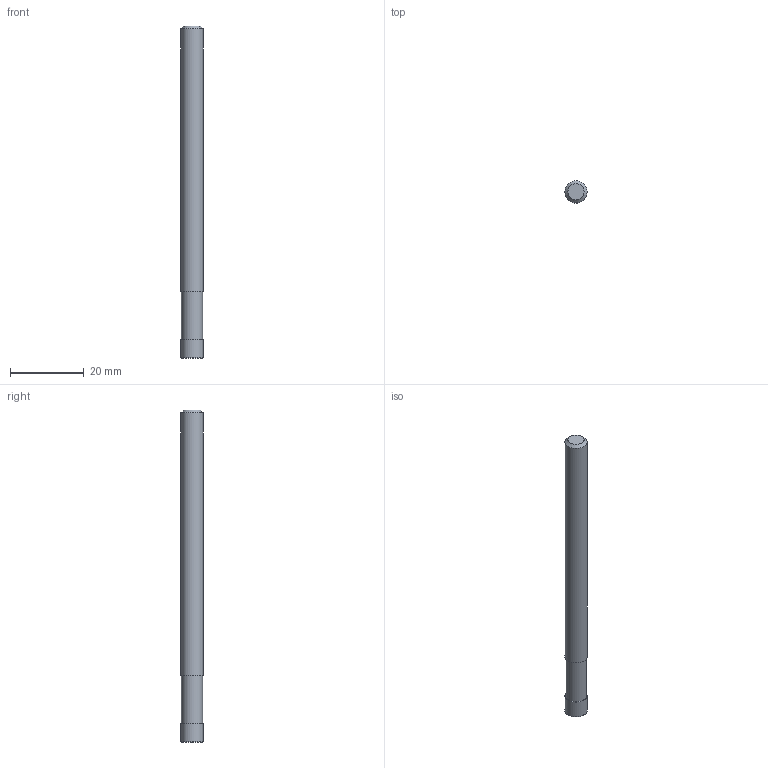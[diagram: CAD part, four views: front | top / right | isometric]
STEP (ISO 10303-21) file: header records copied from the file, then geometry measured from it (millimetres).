
FILE_DESCRIPTION((''),'2;1');
FILE_NAME('C:\Users\nsx150\AppData\Local\Temp\Mastercam 2021\3SYKECWX22\TEMP.step','2021-04-22T09:52:21',(''),(''),'STEP Write','Mastercam 2021 ... CNC Software, Inc.','');
FILE_SCHEMA(('AUTOMOTIVE_DESIGN'));
Length unit declared in the file: millimetre
Products named in the file (1): None
Bounding box: 6 x 6 x 90 mm (x, y, z)
Volume: 2503.3 mm3; surface area: 1786.8 mm2
Topology: 2 solids, 2 shells, 10 faces, 13 edges, 8 vertices
Faces by surface type: plane 5, cylinder 3, torus 1, cone 1
Full cylindrical faces by diameter (mm): 5.7 x1, 6 x2
Entity records: 232 total; most frequent: DIRECTION 40, CARTESIAN_POINT 28, AXIS2_PLACEMENT_3D 20, ORIENTED_EDGE 16, EDGE_LOOP 16, STYLED_ITEM 13, ADVANCED_FACE 10, FACE_BOUND 10
